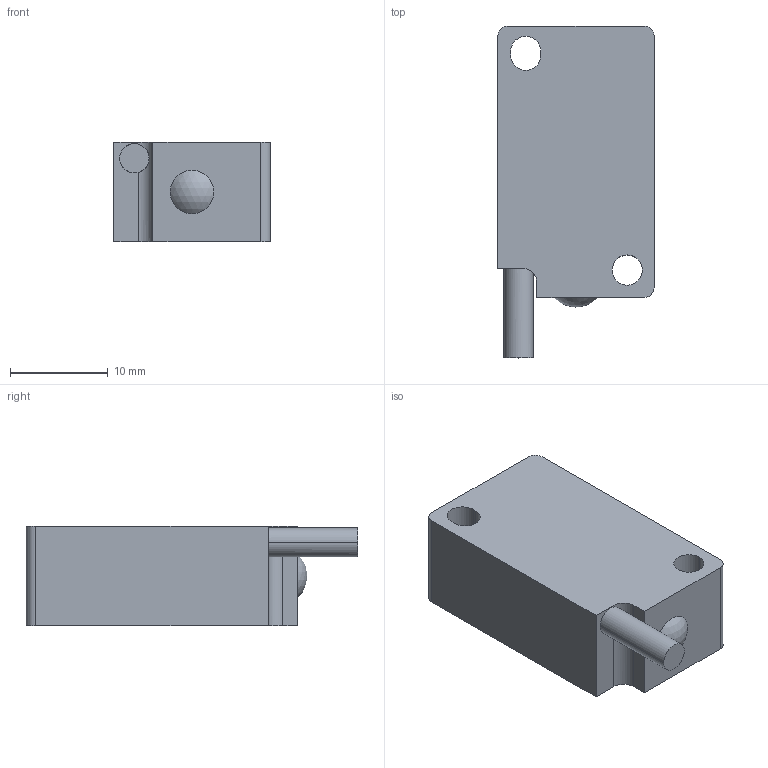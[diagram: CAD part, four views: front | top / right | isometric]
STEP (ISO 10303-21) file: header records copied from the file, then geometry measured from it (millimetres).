
FILE_DESCRIPTION( ( '' ), '1' );
FILE_NAME( '//partserver001.servicenet/client_exchange/iodir/jobs/output/wkb10618235_no0/STEP/is5070_2_03.stp', '2008-05-16T09:55:54', ( '' ), ( '' ), ' ', ' ', ' ' );
FILE_SCHEMA( ( 'CONFIG_CONTROL_DESIGN' ) );
Length unit declared in the file: millimetre
Products named in the file (1): 1
Bounding box: 16 x 34 x 10.2 mm (x, y, z)
Volume: 4304.5 mm3; surface area: 2030.3 mm2
Topology: 1 solids, 1 shells, 31 faces, 77 edges, 52 vertices
Faces by surface type: cylinder 16, plane 14, sphere 1
Entity records: 1039 total; most frequent: CARTESIAN_POINT 211, DIRECTION 173, ORIENTED_EDGE 154, EDGE_CURVE 77, AXIS2_PLACEMENT_3D 66, VERTEX_POINT 52, LINE 41, VECTOR 41
